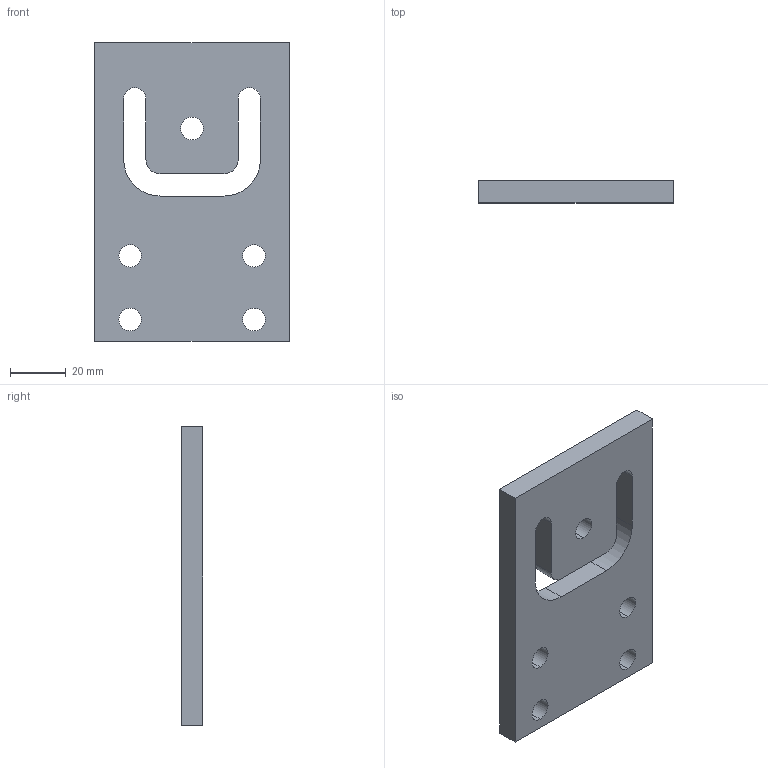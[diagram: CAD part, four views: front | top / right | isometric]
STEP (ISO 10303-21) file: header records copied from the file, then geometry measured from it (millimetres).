
FILE_DESCRIPTION (( 'STEP AP203' ), '1' );
FILE_NAME ('0080598 PB-150KG-M-PHYSICAL ASSEMBLY.STEP', '2025-06-02T11:35:37', ( '' ), ( '' ), 'SwSTEP 2.0', 'SolidWorks 2023', '' );
FILE_SCHEMA (( 'CONFIG_CONTROL_DESIGN' ));
Length unit declared in the file: millimetre
Products named in the file (1): 0080598 PB-150KG-M-PHYSICAL ASSEMBLY
Bounding box: 69.8 x 7.9 x 107.3 mm (x, y, z)
Volume: 50696.3 mm3; surface area: 18348.3 mm2
Topology: 1 solids, 1 shells, 33 faces, 90 edges, 60 vertices
Faces by surface type: cylinder 20, plane 13
Entity records: 1165 total; most frequent: DIRECTION 198, CARTESIAN_POINT 184, ORIENTED_EDGE 180, EDGE_CURVE 90, AXIS2_PLACEMENT_3D 74, VERTEX_POINT 60, VECTOR 50, LINE 50
